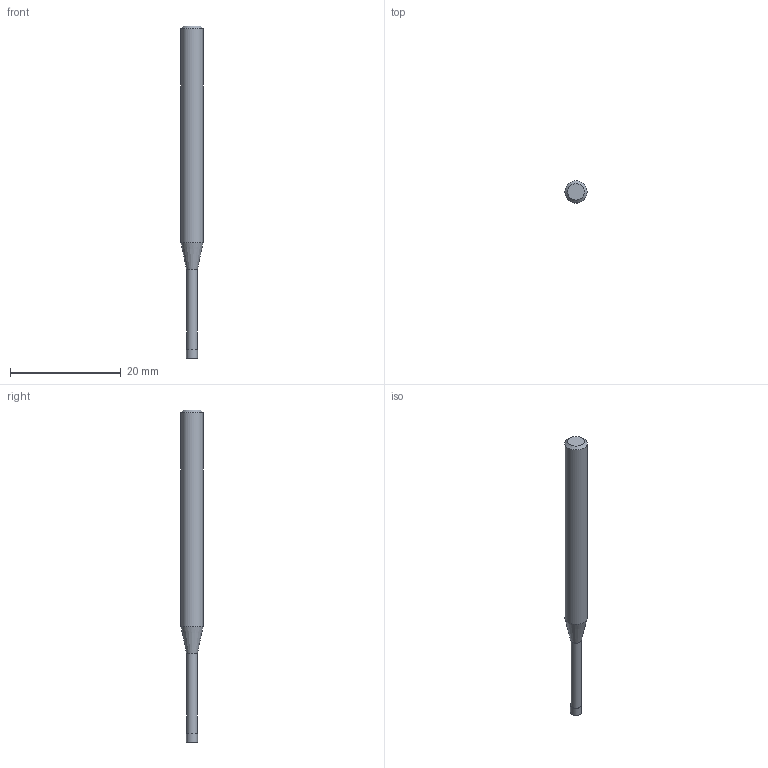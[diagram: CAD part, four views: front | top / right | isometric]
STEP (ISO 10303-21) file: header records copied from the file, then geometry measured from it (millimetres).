
FILE_DESCRIPTION((''),'2;1');
FILE_NAME('C:\Users\nsx150\AppData\Local\Temp\Mastercam 2021\3SYKECWX22\TEMP.step','2021-04-22T09:39:23',(''),(''),'STEP Write','Mastercam 2021 ... CNC Software, Inc.','');
FILE_SCHEMA(('AUTOMOTIVE_DESIGN'));
Length unit declared in the file: millimetre
Products named in the file (1): None
Bounding box: 4 x 4 x 60 mm (x, y, z)
Volume: 573.1 mm3; surface area: 653.9 mm2
Topology: 2 solids, 2 shells, 9 faces, 12 edges, 7 vertices
Faces by surface type: plane 4, cylinder 3, cone 2
Full cylindrical faces by diameter (mm): 1.94 x1, 2 x1, 4 x1
Entity records: 211 total; most frequent: DIRECTION 36, CARTESIAN_POINT 25, AXIS2_PLACEMENT_3D 18, ORIENTED_EDGE 14, EDGE_LOOP 14, STYLED_ITEM 12, ADVANCED_FACE 9, FACE_BOUND 8
